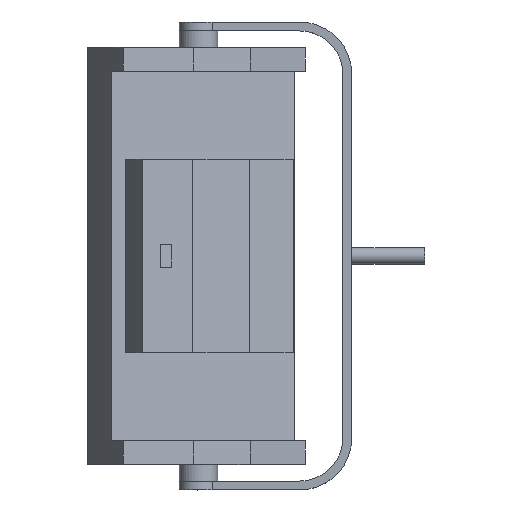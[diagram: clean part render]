
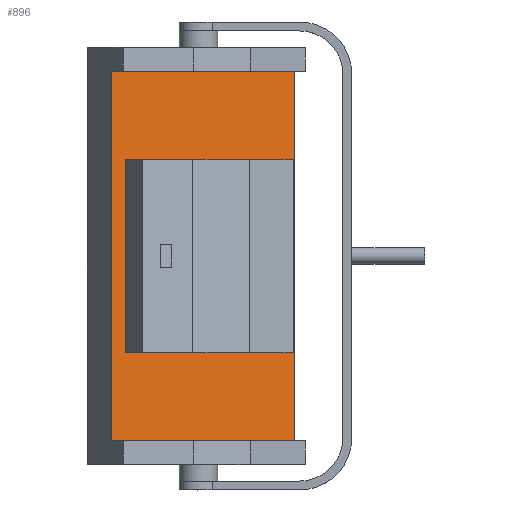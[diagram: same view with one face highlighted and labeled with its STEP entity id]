
A CAD part, top view. The second image highlights one B-rep face of the part: STEP entity #896.
In plain terms, the highlighted planar face has unit normal (0.5, 0, 0.866) as drawn and (0, 0, 1) by its records, which use the part's own axes.
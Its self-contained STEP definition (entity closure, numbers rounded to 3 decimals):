
#28=FACE_BOUND('',#138,.T.);
#85=FACE_OUTER_BOUND('',#137,.T.);
#137=EDGE_LOOP('',(#687,#688,#689,#690));
#138=EDGE_LOOP('',(#691,#692,#693,#694));
#199=LINE('',#1353,#304);
#204=LINE('',#1362,#309);
#209=LINE('',#1372,#314);
#211=LINE('',#1376,#316);
#217=LINE('',#1390,#322);
#225=LINE('',#1406,#330);
#226=LINE('',#1408,#331);
#227=LINE('',#1409,#332);
#304=VECTOR('',#1096,10.);
#309=VECTOR('',#1103,10.);
#314=VECTOR('',#1112,10.);
#316=VECTOR('',#1118,10.);
#322=VECTOR('',#1128,10.);
#330=VECTOR('',#1142,10.);
#331=VECTOR('',#1143,10.);
#332=VECTOR('',#1144,10.);
#402=VERTEX_POINT('',#1350);
#403=VERTEX_POINT('',#1352);
#406=VERTEX_POINT('',#1360);
#409=VERTEX_POINT('',#1370);
#414=VERTEX_POINT('',#1387);
#415=VERTEX_POINT('',#1389);
#420=VERTEX_POINT('',#1405);
#421=VERTEX_POINT('',#1407);
#495=EDGE_CURVE('',#403,#402,#199,.T.);
#500=EDGE_CURVE('',#402,#406,#204,.T.);
#505=EDGE_CURVE('',#406,#409,#209,.T.);
#507=EDGE_CURVE('',#409,#403,#211,.T.);
#513=EDGE_CURVE('',#415,#414,#217,.T.);
#521=EDGE_CURVE('',#414,#420,#225,.F.);
#522=EDGE_CURVE('',#420,#421,#226,.T.);
#523=EDGE_CURVE('',#421,#415,#227,.T.);
#687=ORIENTED_EDGE('',*,*,#513,.T.);
#688=ORIENTED_EDGE('',*,*,#521,.T.);
#689=ORIENTED_EDGE('',*,*,#522,.T.);
#690=ORIENTED_EDGE('',*,*,#523,.T.);
#691=ORIENTED_EDGE('',*,*,#495,.T.);
#692=ORIENTED_EDGE('',*,*,#500,.T.);
#693=ORIENTED_EDGE('',*,*,#505,.T.);
#694=ORIENTED_EDGE('',*,*,#507,.T.);
#852=PLANE('',#978);
#896=ADVANCED_FACE('',(#85,#28),#852,.F.);
#978=AXIS2_PLACEMENT_3D('',#1404,#1140,#1141);
#1096=DIRECTION('',(0.,1.,0.));
#1103=DIRECTION('',(1.,0.,0.));
#1112=DIRECTION('',(0.,-1.,0.));
#1118=DIRECTION('',(-1.,0.,0.));
#1128=DIRECTION('',(-1.,0.,0.));
#1140=DIRECTION('center_axis',(0.,0.,-1.));
#1141=DIRECTION('ref_axis',(0.,-1.,0.));
#1142=DIRECTION('',(0.,1.,0.));
#1143=DIRECTION('',(1.,0.,0.));
#1144=DIRECTION('',(0.,1.,0.));
#1350=CARTESIAN_POINT('',(-146.5,162.5,51.1));
#1352=CARTESIAN_POINT('',(-146.5,-162.5,51.1));
#1353=CARTESIAN_POINT('',(-146.5,0.,51.1));
#1360=CARTESIAN_POINT('',(146.5,162.5,51.1));
#1362=CARTESIAN_POINT('',(3.001,162.5,51.1));
#1370=CARTESIAN_POINT('',(146.5,-162.5,51.1));
#1372=CARTESIAN_POINT('',(146.5,0.,51.1));
#1376=CARTESIAN_POINT('',(3.001,-162.5,51.1));
#1387=CARTESIAN_POINT('',(-173.913,310.5,51.1));
#1389=CARTESIAN_POINT('',(181.002,310.5,51.1));
#1390=CARTESIAN_POINT('',(4.773,310.5,51.1));
#1404=CARTESIAN_POINT('Origin',(6.001,0.,51.1));
#1405=CARTESIAN_POINT('',(-173.913,-310.5,51.1));
#1406=CARTESIAN_POINT('',(-173.913,0.,51.1));
#1407=CARTESIAN_POINT('',(181.002,-310.5,51.1));
#1408=CARTESIAN_POINT('',(4.773,-310.5,51.1));
#1409=CARTESIAN_POINT('',(181.002,0.,51.1));
